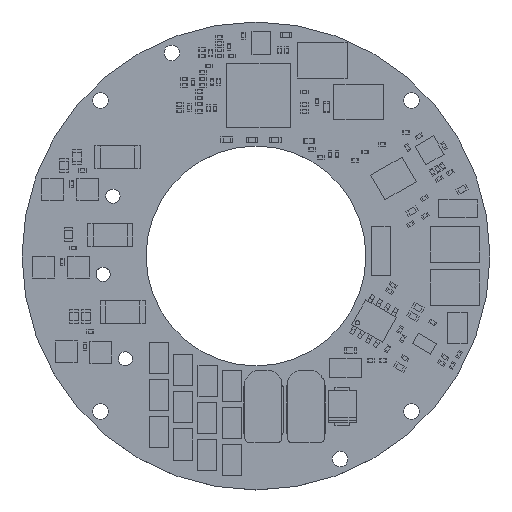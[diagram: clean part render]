
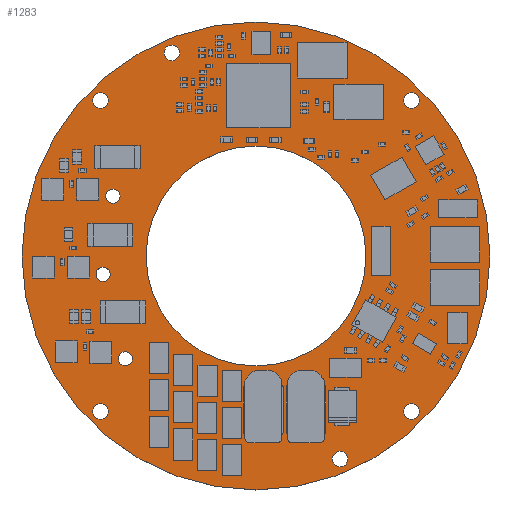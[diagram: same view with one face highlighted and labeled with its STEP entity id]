
A CAD part, top view. The second image highlights one B-rep face of the part: STEP entity #1283.
In plain terms, the highlighted planar face has unit normal (0, 0, 1).
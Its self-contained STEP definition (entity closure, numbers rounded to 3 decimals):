
#744 = VERTEX_POINT('',#745);
#745 = CARTESIAN_POINT('',(33.,0.,1.812));
#751 = EDGE_CURVE('',#744,#744,#752,.T.);
#752 = CIRCLE('',#753,33.);
#753 = AXIS2_PLACEMENT_3D('',#754,#755,#756);
#754 = CARTESIAN_POINT('',(0.,0.,1.812));
#755 = DIRECTION('',(0.,0.,1.));
#756 = DIRECTION('',(1.,0.,-0.));
#777 = VERTEX_POINT('',#778);
#778 = CARTESIAN_POINT('',(-20.821,-21.921,1.812));
#784 = EDGE_CURVE('',#777,#777,#785,.T.);
#785 = CIRCLE('',#786,1.1);
#786 = AXIS2_PLACEMENT_3D('',#787,#788,#789);
#787 = CARTESIAN_POINT('',(-21.921,-21.921,1.812));
#788 = DIRECTION('',(0.,0.,1.));
#789 = DIRECTION('',(1.,0.,-0.));
#810 = VERTEX_POINT('',#811);
#811 = CARTESIAN_POINT('',(-17.415,-14.49,1.812));
#817 = EDGE_CURVE('',#810,#810,#818,.T.);
#818 = CIRCLE('',#819,1.);
#819 = AXIS2_PLACEMENT_3D('',#820,#821,#822);
#820 = CARTESIAN_POINT('',(-18.415,-14.49,1.812));
#821 = DIRECTION('',(0.,0.,1.));
#822 = DIRECTION('',(1.,0.,-0.));
#843 = VERTEX_POINT('',#844);
#844 = CARTESIAN_POINT('',(15.5,0.,1.812));
#850 = EDGE_CURVE('',#843,#843,#851,.T.);
#851 = CIRCLE('',#852,15.5);
#852 = AXIS2_PLACEMENT_3D('',#853,#854,#855);
#853 = CARTESIAN_POINT('',(0.,0.,1.812));
#854 = DIRECTION('',(0.,0.,1.));
#855 = DIRECTION('',(1.,0.,-0.));
#876 = VERTEX_POINT('',#877);
#877 = CARTESIAN_POINT('',(-20.56,-2.6,1.812));
#883 = EDGE_CURVE('',#876,#876,#884,.T.);
#884 = CIRCLE('',#885,1.);
#885 = AXIS2_PLACEMENT_3D('',#886,#887,#888);
#886 = CARTESIAN_POINT('',(-21.56,-2.6,1.812));
#887 = DIRECTION('',(0.,0.,1.));
#888 = DIRECTION('',(1.,0.,-0.));
#909 = VERTEX_POINT('',#910);
#910 = CARTESIAN_POINT('',(-20.821,21.92,1.812));
#916 = EDGE_CURVE('',#909,#909,#917,.T.);
#917 = CIRCLE('',#918,1.1);
#918 = AXIS2_PLACEMENT_3D('',#919,#920,#921);
#919 = CARTESIAN_POINT('',(-21.921,21.92,1.812));
#920 = DIRECTION('',(0.,0.,1.));
#921 = DIRECTION('',(1.,0.,-0.));
#942 = VERTEX_POINT('',#943);
#943 = CARTESIAN_POINT('',(-19.175,8.435,1.812));
#949 = EDGE_CURVE('',#942,#942,#950,.T.);
#950 = CIRCLE('',#951,1.);
#951 = AXIS2_PLACEMENT_3D('',#952,#953,#954);
#952 = CARTESIAN_POINT('',(-20.175,8.435,1.812));
#953 = DIRECTION('',(0.,0.,1.));
#954 = DIRECTION('',(1.,0.,-0.));
#975 = VERTEX_POINT('',#976);
#976 = CARTESIAN_POINT('',(-10.764,28.64,1.812));
#982 = EDGE_CURVE('',#975,#975,#983,.T.);
#983 = CIRCLE('',#984,1.1);
#984 = AXIS2_PLACEMENT_3D('',#985,#986,#987);
#985 = CARTESIAN_POINT('',(-11.864,28.64,1.812));
#986 = DIRECTION('',(0.,0.,1.));
#987 = DIRECTION('',(1.,0.,-0.));
#1008 = VERTEX_POINT('',#1009);
#1009 = CARTESIAN_POINT('',(1.932,-23.768,1.812));
#1015 = EDGE_CURVE('',#1008,#1008,#1016,.T.);
#1016 = CIRCLE('',#1017,0.9);
#1017 = AXIS2_PLACEMENT_3D('',#1018,#1019,#1020);
#1018 = CARTESIAN_POINT('',(1.032,-23.768,1.812));
#1019 = DIRECTION('',(0.,0.,1.));
#1020 = DIRECTION('',(1.,0.,-0.));
#1041 = VERTEX_POINT('',#1042);
#1042 = CARTESIAN_POINT('',(12.963,-28.641,1.812));
#1048 = EDGE_CURVE('',#1041,#1041,#1049,.T.);
#1049 = CIRCLE('',#1050,1.1);
#1050 = AXIS2_PLACEMENT_3D('',#1051,#1052,#1053);
#1051 = CARTESIAN_POINT('',(11.863,-28.641,1.812));
#1052 = DIRECTION('',(0.,0.,1.));
#1053 = DIRECTION('',(1.,0.,-0.));
#1074 = VERTEX_POINT('',#1075);
#1075 = CARTESIAN_POINT('',(7.932,-23.768,1.812));
#1081 = EDGE_CURVE('',#1074,#1074,#1082,.T.);
#1082 = CIRCLE('',#1083,0.9);
#1083 = AXIS2_PLACEMENT_3D('',#1084,#1085,#1086);
#1084 = CARTESIAN_POINT('',(7.032,-23.768,1.812));
#1085 = DIRECTION('',(0.,0.,1.));
#1086 = DIRECTION('',(1.,0.,-0.));
#1107 = VERTEX_POINT('',#1108);
#1108 = CARTESIAN_POINT('',(1.932,-18.768,1.812));
#1114 = EDGE_CURVE('',#1107,#1107,#1115,.T.);
#1115 = CIRCLE('',#1116,0.9);
#1116 = AXIS2_PLACEMENT_3D('',#1117,#1118,#1119);
#1117 = CARTESIAN_POINT('',(1.032,-18.768,1.812));
#1118 = DIRECTION('',(0.,0.,1.));
#1119 = DIRECTION('',(1.,0.,-0.));
#1140 = VERTEX_POINT('',#1141);
#1141 = CARTESIAN_POINT('',(7.932,-18.768,1.812));
#1147 = EDGE_CURVE('',#1140,#1140,#1148,.T.);
#1148 = CIRCLE('',#1149,0.9);
#1149 = AXIS2_PLACEMENT_3D('',#1150,#1151,#1152);
#1150 = CARTESIAN_POINT('',(7.032,-18.768,1.812));
#1151 = DIRECTION('',(0.,0.,1.));
#1152 = DIRECTION('',(1.,0.,-0.));
#1173 = VERTEX_POINT('',#1174);
#1174 = CARTESIAN_POINT('',(23.02,-21.921,1.812));
#1180 = EDGE_CURVE('',#1173,#1173,#1181,.T.);
#1181 = CIRCLE('',#1182,1.1);
#1182 = AXIS2_PLACEMENT_3D('',#1183,#1184,#1185);
#1183 = CARTESIAN_POINT('',(21.92,-21.921,1.812));
#1184 = DIRECTION('',(0.,0.,1.));
#1185 = DIRECTION('',(1.,0.,-0.));
#1206 = VERTEX_POINT('',#1207);
#1207 = CARTESIAN_POINT('',(23.02,21.92,1.812));
#1213 = EDGE_CURVE('',#1206,#1206,#1214,.T.);
#1214 = CIRCLE('',#1215,1.1);
#1215 = AXIS2_PLACEMENT_3D('',#1216,#1217,#1218);
#1216 = CARTESIAN_POINT('',(21.92,21.92,1.812));
#1217 = DIRECTION('',(0.,0.,1.));
#1218 = DIRECTION('',(1.,0.,-0.));
#1283 = ADVANCED_FACE('',(#1284,#1287,#1290,#1293,#1296,#1299,#1302,
    #1305,#1308,#1311,#1314,#1317,#1320,#1323,#1326),#1329,.T.);
#1284 = FACE_BOUND('',#1285,.T.);
#1285 = EDGE_LOOP('',(#1286));
#1286 = ORIENTED_EDGE('',*,*,#751,.T.);
#1287 = FACE_BOUND('',#1288,.T.);
#1288 = EDGE_LOOP('',(#1289));
#1289 = ORIENTED_EDGE('',*,*,#784,.F.);
#1290 = FACE_BOUND('',#1291,.T.);
#1291 = EDGE_LOOP('',(#1292));
#1292 = ORIENTED_EDGE('',*,*,#817,.F.);
#1293 = FACE_BOUND('',#1294,.T.);
#1294 = EDGE_LOOP('',(#1295));
#1295 = ORIENTED_EDGE('',*,*,#850,.F.);
#1296 = FACE_BOUND('',#1297,.T.);
#1297 = EDGE_LOOP('',(#1298));
#1298 = ORIENTED_EDGE('',*,*,#883,.F.);
#1299 = FACE_BOUND('',#1300,.T.);
#1300 = EDGE_LOOP('',(#1301));
#1301 = ORIENTED_EDGE('',*,*,#916,.F.);
#1302 = FACE_BOUND('',#1303,.T.);
#1303 = EDGE_LOOP('',(#1304));
#1304 = ORIENTED_EDGE('',*,*,#949,.F.);
#1305 = FACE_BOUND('',#1306,.T.);
#1306 = EDGE_LOOP('',(#1307));
#1307 = ORIENTED_EDGE('',*,*,#982,.F.);
#1308 = FACE_BOUND('',#1309,.T.);
#1309 = EDGE_LOOP('',(#1310));
#1310 = ORIENTED_EDGE('',*,*,#1015,.F.);
#1311 = FACE_BOUND('',#1312,.T.);
#1312 = EDGE_LOOP('',(#1313));
#1313 = ORIENTED_EDGE('',*,*,#1048,.F.);
#1314 = FACE_BOUND('',#1315,.T.);
#1315 = EDGE_LOOP('',(#1316));
#1316 = ORIENTED_EDGE('',*,*,#1081,.F.);
#1317 = FACE_BOUND('',#1318,.T.);
#1318 = EDGE_LOOP('',(#1319));
#1319 = ORIENTED_EDGE('',*,*,#1114,.F.);
#1320 = FACE_BOUND('',#1321,.T.);
#1321 = EDGE_LOOP('',(#1322));
#1322 = ORIENTED_EDGE('',*,*,#1147,.F.);
#1323 = FACE_BOUND('',#1324,.T.);
#1324 = EDGE_LOOP('',(#1325));
#1325 = ORIENTED_EDGE('',*,*,#1180,.F.);
#1326 = FACE_BOUND('',#1327,.T.);
#1327 = EDGE_LOOP('',(#1328));
#1328 = ORIENTED_EDGE('',*,*,#1213,.F.);
#1329 = PLANE('',#1330);
#1330 = AXIS2_PLACEMENT_3D('',#1331,#1332,#1333);
#1331 = CARTESIAN_POINT('',(0.,0.,
    1.812));
#1332 = DIRECTION('',(0.,0.,1.));
#1333 = DIRECTION('',(1.,0.,-0.));
